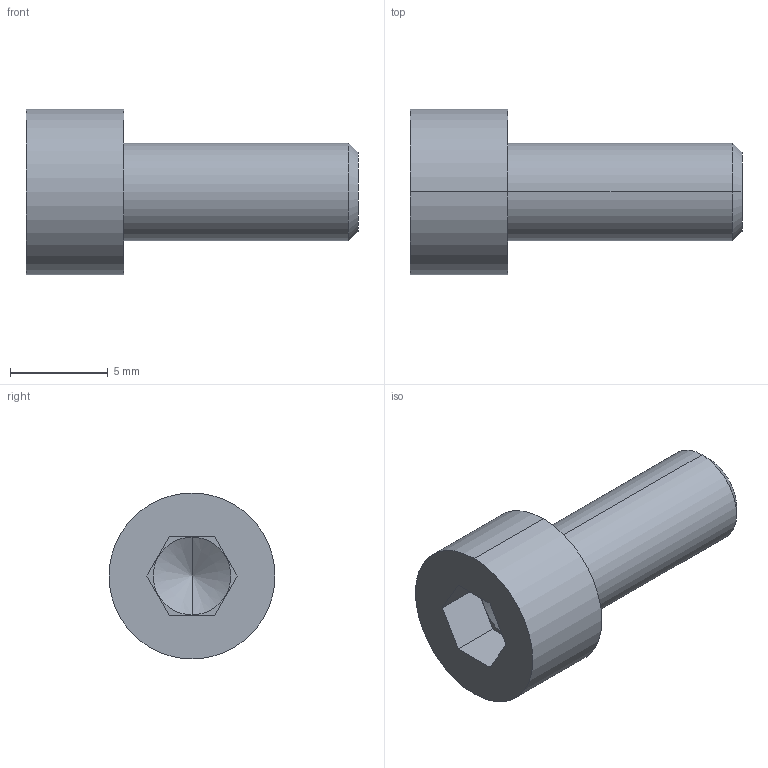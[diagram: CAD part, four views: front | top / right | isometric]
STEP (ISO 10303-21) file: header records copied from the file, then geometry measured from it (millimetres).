
FILE_DESCRIPTION (( 'STEP AP214' ), '1' );
FILE_NAME ('M5x12_DIN912.STEP', '2016-05-14T08:31:12', ( '' ), ( '' ), 'SwSTEP 2.0', 'SolidWorks 2014', '' );
FILE_SCHEMA (( 'AUTOMOTIVE_DESIGN' ));
Length unit declared in the file: millimetre
Products named in the file (1): M5x12_DIN912
Bounding box: 17 x 8.5 x 8.5 mm (x, y, z)
Volume: 478.2 mm3; surface area: 467.2 mm2
Topology: 1 solids, 1 shells, 18 faces, 40 edges, 25 vertices
Faces by surface type: plane 10, cylinder 4, cone 4
Entity records: 718 total; most frequent: DIRECTION 88, CARTESIAN_POINT 82, ORIENTED_EDGE 76, EDGE_CURVE 38, AXIS2_PLACEMENT_3D 31, LINE 26, VECTOR 26, VERTEX_POINT 25
